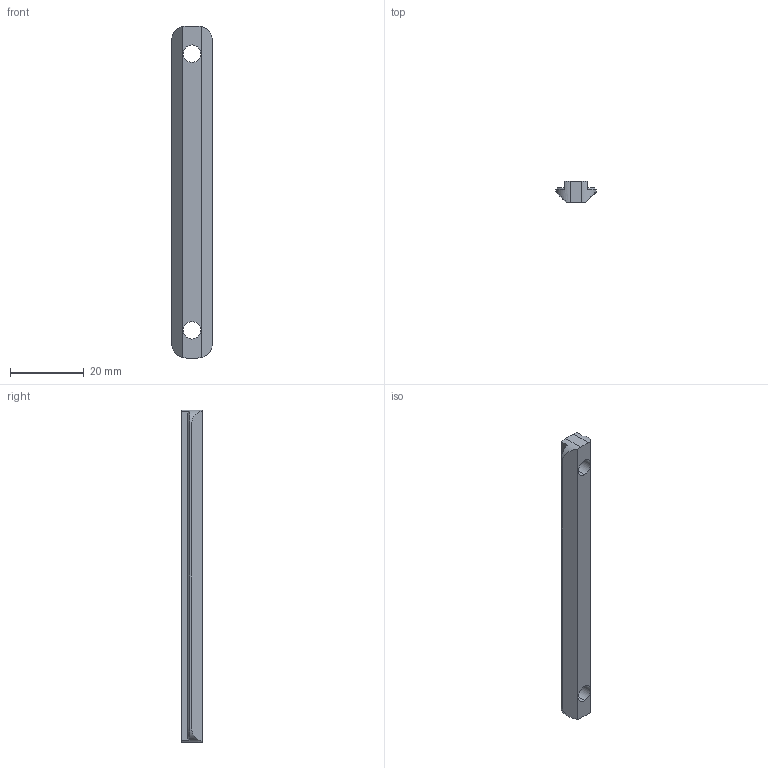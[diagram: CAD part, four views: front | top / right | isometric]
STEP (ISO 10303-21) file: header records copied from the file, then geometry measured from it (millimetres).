
FILE_DESCRIPTION (( 'STEP AP203' ), '1' );
FILE_NAME ('Ski.STEP', '2025-03-11T00:33:59', ( '' ), ( '' ), 'SwSTEP 2.0', 'SolidWorks 2024', '' );
FILE_SCHEMA (( 'CONFIG_CONTROL_DESIGN' ));
Length unit declared in the file: millimetre
Products named in the file (1): Ski
Bounding box: 11 x 5.75 x 90 mm (x, y, z)
Volume: 3841.5 mm3; surface area: 2799.8 mm2
Topology: 1 solids, 1 shells, 26 faces, 68 edges, 44 vertices
Faces by surface type: plane 14, cylinder 8, cone 4
Entity records: 891 total; most frequent: CARTESIAN_POINT 163, DIRECTION 138, ORIENTED_EDGE 136, EDGE_CURVE 68, AXIS2_PLACEMENT_3D 51, VERTEX_POINT 44, VECTOR 36, LINE 36
